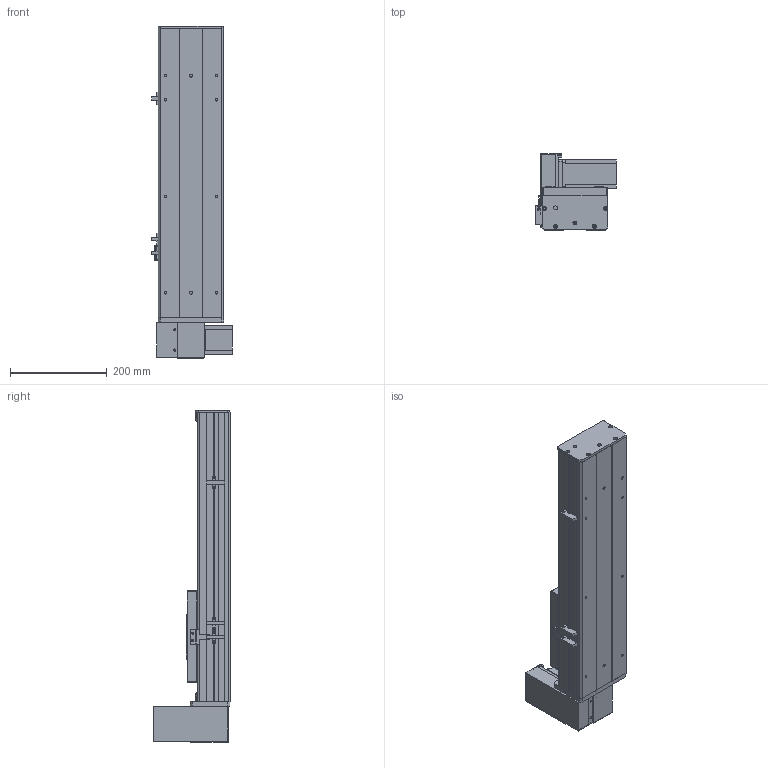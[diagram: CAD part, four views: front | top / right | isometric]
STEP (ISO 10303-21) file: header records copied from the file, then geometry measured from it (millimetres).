
FILE_DESCRIPTION (( 'STEP AP203' ), '1' );
FILE_NAME ('Y135CB-D90-S300-UR-P400W.STEP', '2020-02-18T03:31:33', ( '微软用户' ), ( '微软中国' ), 'SwSTEP 2.0', 'SolidWorks 2017', '' );
FILE_SCHEMA (( 'CONFIG_CONTROL_DESIGN' ));
Length unit declared in the file: millimetre
Products named in the file (18): san松下电机400不带刹车----; Y135C-陔俋离換覜結え-; 5CB --掛极耜裔啣-; 5C--俋欶; C-詩湍揤踡え-陔; C-雄赽釱--; Y135CB-耜裔; 135CB--詩湍-CE; Y10B--々湍喘謫眊--666; 135CB---遴掛极.-; Y10B-耜蚾蟀諉啣----; 35CB---喘謫眊楊擘啣; 00B-俋欶BM--; 0B-埴倛裔啣; Y135CB-D90-S300-UR-P400W; 0B-源倛裔啣; 0B-萇儂楊擘啣; Y100-135俋离換覜ん--
Assembly tree (21 placements, depth 2):
  Y135CB-D90-S300-UR-P400W
    Y135CB-耜裔
    135CB---遴掛极.-
    35CB---喘謫眊楊擘啣
    0B-埴倛裔啣
    0B-源倛裔啣
    0B-萇儂楊擘啣
    san松下电机400不带刹车----
    5CB --掛极耜裔啣-  x2
    C-詩湍揤踡え-陔  x2
    135CB--詩湍-CE
    Y100-135俋离換覜ん--  x3
    Y135C-陔俋离換覜結え-
    5C--俋欶
    C-雄赽釱--
    Y10B--々湍喘謫眊--666
    Y10B-耜蚾蟀諉啣----
    00B-俋欶BM--
Bounding box: 167.5 x 158.7 x 688 mm (x, y, z)
Volume: 2568500.9 mm3; surface area: 986506.2 mm2
Topology: 21 solids, 21 shells, 933 faces, 2473 edges, 1638 vertices
Faces by surface type: cylinder 461, plane 456, cone 16
Entity records: 28743 total; most frequent: DIRECTION 4773, CARTESIAN_POINT 4680, ORIENTED_EDGE 4422, EDGE_CURVE 2211, AXIS2_PLACEMENT_3D 1735, VERTEX_POINT 1466, LINE 1303, VECTOR 1303
